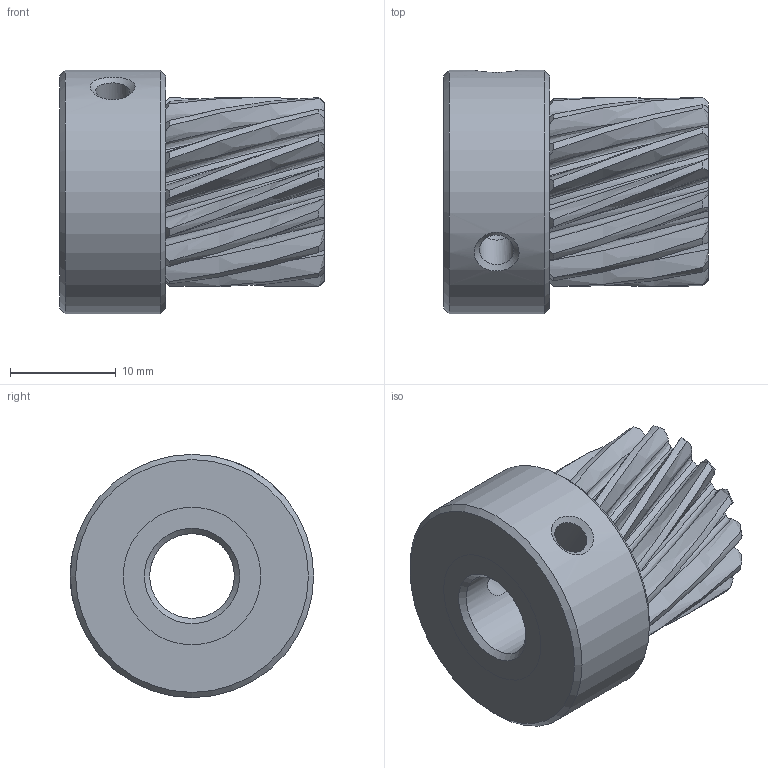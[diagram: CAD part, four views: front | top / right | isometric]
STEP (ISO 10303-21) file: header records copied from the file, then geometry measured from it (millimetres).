
FILE_DESCRIPTION(('STEP AP214'), '1');
FILE_NAME('GH1-T15D8 - Øåñòåðíÿ', '', ('UNSPECIFIED'), ('UNSPECIFIED'), 'ASCON STEP Converter 1.3', 'ASCON Math Kernel', '');
FILE_SCHEMA(('AUTOMOTIVE_DESIGN { 1 0 10303 214 3 1 1}'));
Length unit declared in the file: millimetre
Products named in the file (1): GH1-T15D8
Bounding box: 25 x 23 x 23 mm (x, y, z)
Volume: 5648.2 mm3; surface area: 4533.9 mm2
Topology: 2 solids, 2 shells, 169 faces, 487 edges, 324 vertices
Faces by surface type: bspline 92, cylinder 38, cone 34, plane 5
Full cylindrical faces by diameter (mm): 3.242 x4, 8 x1, 13 x2, 23 x1
Entity records: 14746 total; most frequent: CARTESIAN_POINT 9792, ORIENTED_EDGE 944, EDGE_CURVE 472, B_SPLINE_CURVE_WITH_KNOTS 371, DIRECTION 360, VERTEX_POINT 322, EDGE_LOOP 196, AXIS2_PLACEMENT_3D 180
